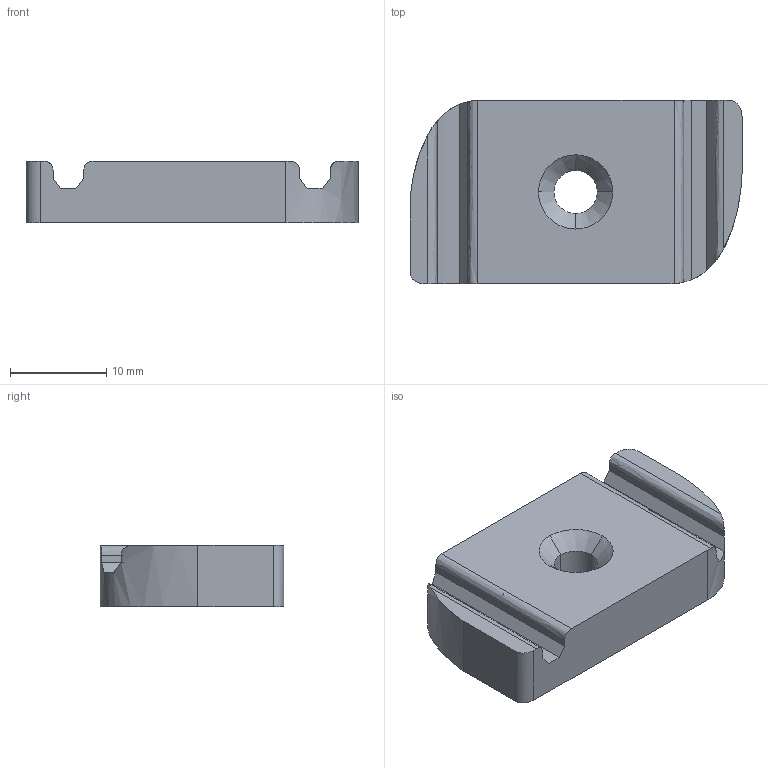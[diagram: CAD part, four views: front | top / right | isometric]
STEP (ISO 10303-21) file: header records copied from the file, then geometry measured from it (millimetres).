
FILE_DESCRIPTION(('TurboCAD Mac Pro'),'Build 980');
FILE_NAME('P3006-0832.stp',' ',(''),(''),'ACIS Interop','IMSI','TurboCAD Mac Pro BY IMSI, INCORPORATED');
FILE_SCHEMA(('automotive_design'));
Length unit declared in the file: inch
Products named in the file (1): 1
Bounding box: 34.45 x 19.05 x 6.35 mm (x, y, z)
Volume: 3517.1 mm3; surface area: 2010.1 mm2
Topology: 1 solids, 1 shells, 34 faces, 92 edges, 60 vertices
Faces by surface type: plane 18, bspline 16
Entity records: 1854 total; most frequent: CARTESIAN_POINT 833, ORIENTED_EDGE 184, EDGE_CURVE 92, DIRECTION 86, VERTEX_POINT 60, LINE 48, VECTOR 48, B_SPLINE_CURVE_WITH_KNOTS 44
